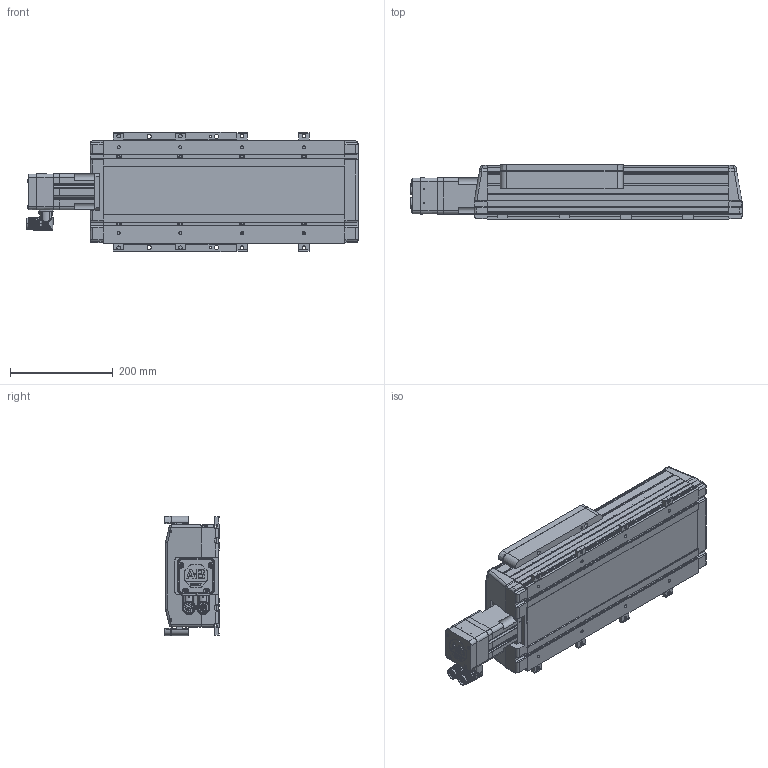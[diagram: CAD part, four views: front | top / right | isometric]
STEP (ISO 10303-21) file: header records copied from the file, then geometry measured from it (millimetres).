
FILE_DESCRIPTION((''),'2;1');
FILE_NAME('MPAS-B80182-V20S2A_ASM','2007-08-01T',('jayapriya'),(''),'PRO/ENGINEER BY PARAMETRIC TECHNOLOGY CORPORATION, 2006200','PRO/ENGINEER BY PARAMETRIC TECHNOLOGY CORPORATION, 2006200','');
FILE_SCHEMA(('CONFIG_CONTROL_DESIGN'));
Length unit declared in the file: millimetre
Products named in the file (12): PART-1_200_B_521; PART-2_200_B; PART-3_200_B; PART-4_200_B; PART-5_200_B_521; PART-6_200_B; PART-7_200_B; MPL-220-HSNG42AA; MPL-200-CONN-SIGNAL; MPL-200-CONN-POWER; MPLS-X220H-VJ42AA_ASM; MPAS-B80182-V20S2A_ASM
Assembly tree (25 placements, depth 3):
  MPAS-B80182-V20S2A_ASM
    PART-1_200_B_521
    PART-2_200_B
    PART-3_200_B
    PART-4_200_B
    PART-5_200_B_521
    PART-6_200_B  x8
    PART-7_200_B  x8
    MPLS-X220H-VJ42AA_ASM
      MPL-220-HSNG42AA
      MPL-200-CONN-SIGNAL
      MPL-200-CONN-POWER
Bounding box: 645.25 x 105.4 x 232 mm (x, y, z)
Volume: 5884880.5 mm3; surface area: 1253133.1 mm2
Topology: 23 solids, 47 shells, 2513 faces, 6940 edges, 4573 vertices
Faces by surface type: cylinder 1117, plane 969, torus 200, cone 166, bspline 45, sphere 16
Entity records: 83302 total; most frequent: CARTESIAN_POINT 21824, DIRECTION 12979, ORIENTED_EDGE 12936, EDGE_CURVE 6470, AXIS2_PLACEMENT_3D 4878, VERTEX_POINT 4293, VECTOR 3223, LINE 3223
